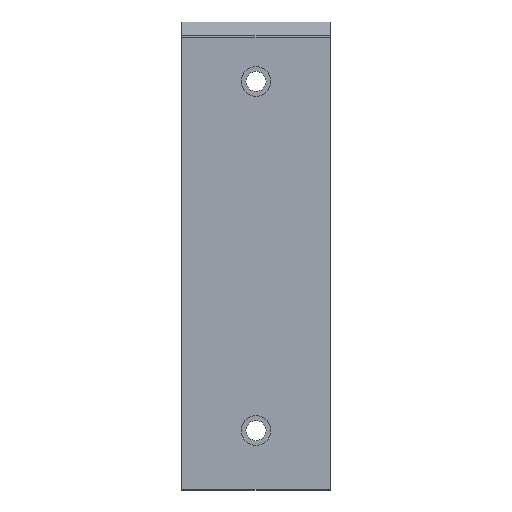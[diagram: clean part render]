
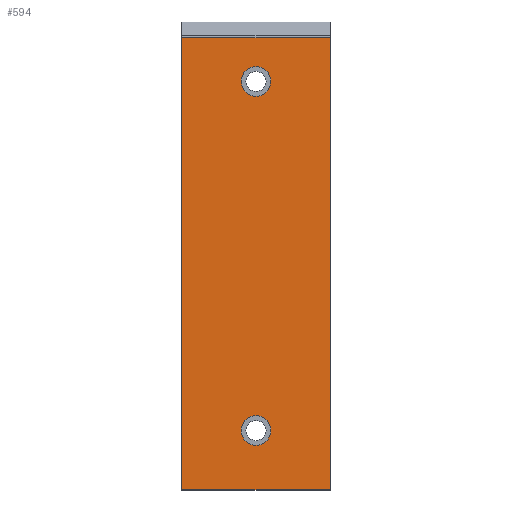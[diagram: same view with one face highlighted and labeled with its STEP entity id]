
A CAD part, top view. The second image highlights one B-rep face of the part: STEP entity #594.
In plain terms, the highlighted planar face has unit normal (0, 0, 1).
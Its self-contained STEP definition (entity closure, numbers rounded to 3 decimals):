
#6 = LINE ( 'NONE', #166, #485 ) ;
#11 = VERTEX_POINT ( 'NONE', #462 ) ;
#14 = VERTEX_POINT ( 'NONE', #300 ) ;
#25 = CARTESIAN_POINT ( 'NONE',  ( -60., 275., 20. ) ) ;
#30 = CARTESIAN_POINT ( 'NONE',  ( -60., 40., 20. ) ) ;
#33 = DIRECTION ( 'NONE',  ( 0., 0., 1. ) ) ;
#37 = VECTOR ( 'NONE', #457, 1000. ) ;
#39 = CARTESIAN_POINT ( 'NONE',  ( 0., 0., 20. ) ) ;
#45 = AXIS2_PLACEMENT_3D ( 'NONE', #392, #393, #394 ) ;
#63 = EDGE_LOOP ( 'NONE', ( #539, #160 ) ) ;
#64 = VERTEX_POINT ( 'NONE', #591 ) ;
#75 = FACE_BOUND ( 'NONE', #507, .T. ) ;
#96 = DIRECTION ( 'NONE',  ( 0., 0., 1. ) ) ;
#116 = DIRECTION ( 'NONE',  ( 0., -1., 0. ) ) ;
#119 = CARTESIAN_POINT ( 'NONE',  ( 0., 152.171, 20. ) ) ;
#122 = CIRCLE ( 'NONE', #147, 10. ) ;
#134 = CARTESIAN_POINT ( 'NONE',  ( -50., 0., 20. ) ) ;
#140 = CARTESIAN_POINT ( 'NONE',  ( 0., 0., 20. ) ) ;
#147 = AXIS2_PLACEMENT_3D ( 'NONE', #211, #214, #219 ) ;
#153 = VECTOR ( 'NONE', #116, 1000. ) ;
#154 = VERTEX_POINT ( 'NONE', #30 ) ;
#159 = CARTESIAN_POINT ( 'NONE',  ( -50., 40., 20. ) ) ;
#160 = ORIENTED_EDGE ( 'NONE', *, *, #264, .F. ) ;
#166 = CARTESIAN_POINT ( 'NONE',  ( -50., 304.342, 20. ) ) ;
#183 = DIRECTION ( 'NONE',  ( 1., 0., 0. ) ) ;
#188 = VECTOR ( 'NONE', #389, 1000. ) ;
#193 = DIRECTION ( 'NONE',  ( 1., 0., 0. ) ) ;
#196 = FACE_BOUND ( 'NONE', #63, .T. ) ;
#204 = LINE ( 'NONE', #134, #188 ) ;
#211 = CARTESIAN_POINT ( 'NONE',  ( -50., 40., 20. ) ) ;
#212 = EDGE_CURVE ( 'NONE', #64, #14, #6, .T. ) ;
#214 = DIRECTION ( 'NONE',  ( 0., 0., 1. ) ) ;
#217 = EDGE_CURVE ( 'NONE', #154, #557, #122, .T. ) ;
#219 = DIRECTION ( 'NONE',  ( 1., 0., 0. ) ) ;
#225 = CARTESIAN_POINT ( 'NONE',  ( -50., 275., 20. ) ) ;
#235 = CARTESIAN_POINT ( 'NONE',  ( -40., 40., 20. ) ) ;
#250 = ORIENTED_EDGE ( 'NONE', *, *, #357, .F. ) ;
#253 = VERTEX_POINT ( 'NONE', #338 ) ;
#264 = EDGE_CURVE ( 'NONE', #11, #373, #447, .T. ) ;
#275 = DIRECTION ( 'NONE',  ( 0., 0., 1. ) ) ;
#292 = CIRCLE ( 'NONE', #501, 10. ) ;
#299 = AXIS2_PLACEMENT_3D ( 'NONE', #225, #275, #193 ) ;
#300 = CARTESIAN_POINT ( 'NONE',  ( -100., 304.342, 20. ) ) ;
#316 = DIRECTION ( 'NONE',  ( -1., 0., 0. ) ) ;
#319 = EDGE_CURVE ( 'NONE', #14, #253, #536, .T. ) ;
#325 = EDGE_CURVE ( 'NONE', #557, #154, #292, .T. ) ;
#330 = ORIENTED_EDGE ( 'NONE', *, *, #450, .F. ) ;
#338 = CARTESIAN_POINT ( 'NONE',  ( -100., 0., 20. ) ) ;
#357 = EDGE_CURVE ( 'NONE', #64, #360, #366, .T. ) ;
#360 = VERTEX_POINT ( 'NONE', #39 ) ;
#366 = LINE ( 'NONE', #119, #153 ) ;
#373 = VERTEX_POINT ( 'NONE', #25 ) ;
#385 = EDGE_LOOP ( 'NONE', ( #483, #330, #250, #506 ) ) ;
#389 = DIRECTION ( 'NONE',  ( -1., 0., 0. ) ) ;
#392 = CARTESIAN_POINT ( 'NONE',  ( -50., 275., 20. ) ) ;
#393 = DIRECTION ( 'NONE',  ( 0., 0., 1. ) ) ;
#394 = DIRECTION ( 'NONE',  ( 1., 0., 0. ) ) ;
#401 = AXIS2_PLACEMENT_3D ( 'NONE', #140, #96, #183 ) ;
#408 = ORIENTED_EDGE ( 'NONE', *, *, #217, .F. ) ;
#413 = EDGE_CURVE ( 'NONE', #373, #11, #589, .T. ) ;
#426 = ORIENTED_EDGE ( 'NONE', *, *, #325, .F. ) ;
#440 = CARTESIAN_POINT ( 'NONE',  ( -100., 152.171, 20. ) ) ;
#447 = CIRCLE ( 'NONE', #45, 10. ) ;
#450 = EDGE_CURVE ( 'NONE', #360, #253, #204, .T. ) ;
#457 = DIRECTION ( 'NONE',  ( 0., -1., 0. ) ) ;
#462 = CARTESIAN_POINT ( 'NONE',  ( -40., 275., 20. ) ) ;
#468 = FACE_OUTER_BOUND ( 'NONE', #385, .T. ) ;
#483 = ORIENTED_EDGE ( 'NONE', *, *, #319, .T. ) ;
#485 = VECTOR ( 'NONE', #316, 1000. ) ;
#493 = DIRECTION ( 'NONE',  ( 1., 0., 0. ) ) ;
#501 = AXIS2_PLACEMENT_3D ( 'NONE', #159, #33, #493 ) ;
#506 = ORIENTED_EDGE ( 'NONE', *, *, #212, .T. ) ;
#507 = EDGE_LOOP ( 'NONE', ( #408, #426 ) ) ;
#522 = PLANE ( 'NONE',  #401 ) ;
#536 = LINE ( 'NONE', #440, #37 ) ;
#539 = ORIENTED_EDGE ( 'NONE', *, *, #413, .F. ) ;
#557 = VERTEX_POINT ( 'NONE', #235 ) ;
#589 = CIRCLE ( 'NONE', #299, 10. ) ;
#591 = CARTESIAN_POINT ( 'NONE',  ( 0., 304.342, 20. ) ) ;
#594 = ADVANCED_FACE ( 'NONE', ( #468, #196, #75 ), #522, .T. ) ;
